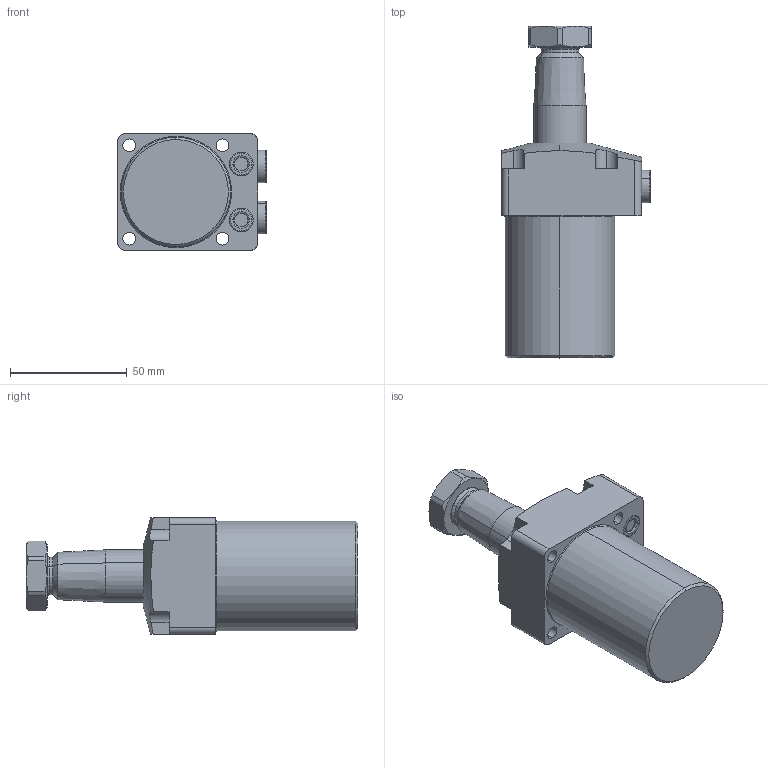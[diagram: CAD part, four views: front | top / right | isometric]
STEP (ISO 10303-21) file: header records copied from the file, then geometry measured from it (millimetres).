
FILE_DESCRIPTION(/* description */ (''),/* implementation_level */ '2;1');
FILE_NAME(/* name */ 'TRC04-RN30.stp',/* time_stamp */ '2025-01-04T09:28:06+08:00',/* author */ (''),/* organization */ (''),/* preprocessor_version */ 'ST-DEVELOPER v16.7',/* originating_system */ 'SIEMENS PLM Software NX 12.0',/* authorisation */ '');
FILE_SCHEMA (('AUTOMOTIVE_DESIGN { 1 0 10303 214 3 1 1 1 }'));
Length unit declared in the file: millimetre
Products named in the file (5): TRC04-RN30-04; TRC04-RN30-03; TRC04-RN30-02; TRC04-RN30-01; TRC04-RN30_stp
Assembly tree (5 placements, depth 2):
  TRC04-RN30_stp
    TRC04-RN30-01
    TRC04-RN30-02
    TRC04-RN30-03
    TRC04-RN30-04  x2
Bounding box: 63.8 x 142.3 x 50 mm (x, y, z)
Volume: 201715.1 mm3; surface area: 31919.7 mm2
Topology: 5 solids, 7 shells, 203 faces, 465 edges, 288 vertices
Faces by surface type: cylinder 73, plane 67, cone 40, torus 22, sphere 1
Entity records: 5434 total; most frequent: CARTESIAN_POINT 1110, DIRECTION 938, ORIENTED_EDGE 836, EDGE_CURVE 418, AXIS2_PLACEMENT_3D 386, VERTEX_POINT 260, EDGE_LOOP 206, CIRCLE 199
